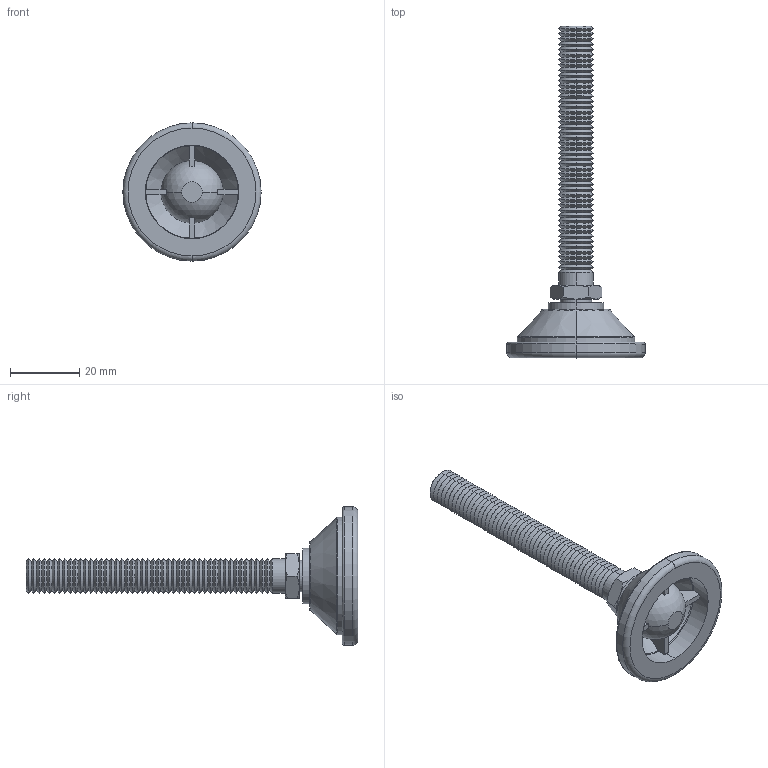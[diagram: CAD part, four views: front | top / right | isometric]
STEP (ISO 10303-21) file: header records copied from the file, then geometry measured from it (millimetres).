
FILE_DESCRIPTION (( 'STEP AP203' ), '1' );
FILE_NAME ('34741.W0104.step', '2016-09-22T07:40:10', ( 'User' ), ( '' ), 'SwSTEP 2.0', 'SolidWorks 2009', '' );
FILE_SCHEMA (( 'CONFIG_CONTROL_DESIGN' ));
Length unit declared in the file: millimetre
Products named in the file (3): Part2_34741.W0104; Part1_34741.W0104; 34741.W0104
Assembly tree (2 placements, depth 2):
  34741.W0104
    Part1_34741.W0104
    Part2_34741.W0104
Bounding box: 40 x 96 x 40 mm (x, y, z)
Volume: 14169.2 mm3; surface area: 9510.9 mm2
Topology: 2 solids, 2 shells, 268 faces, 572 edges, 310 vertices
Faces by surface type: cone 210, plane 26, cylinder 14, torus 12, sphere 6
Entity records: 7437 total; most frequent: DIRECTION 1362, CARTESIAN_POINT 1341, ORIENTED_EDGE 1126, AXIS2_PLACEMENT_3D 566, EDGE_CURVE 563, VERTEX_POINT 305, CIRCLE 293, EDGE_LOOP 274
